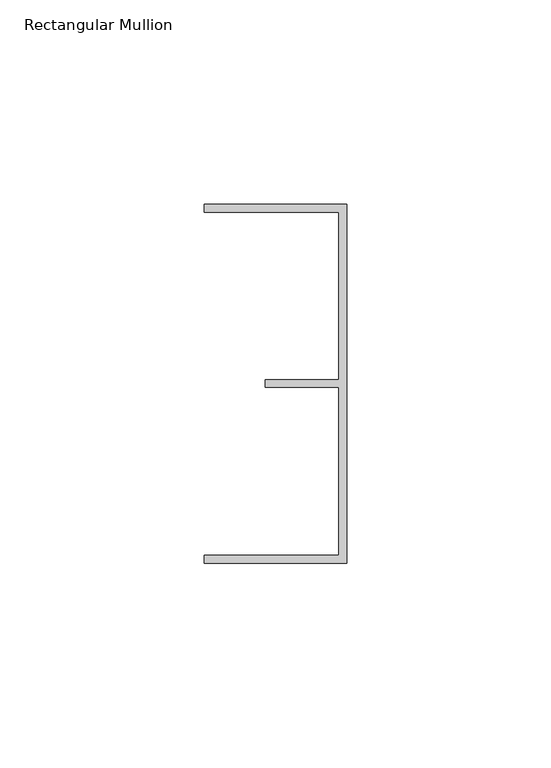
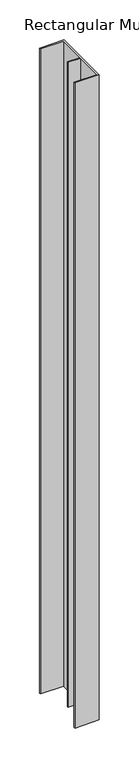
"""IFC4 building model written with IfcOpenShell, lengths in millimetres: member geometry, Rectangular Mullion : CEILING_TRACK_CAP 94-KLP00-P80-SD20ALU."""

from ifc_helpers import new_model, si_unit, frame, origin, place, context, project, spatial, polyline, outline, extrude, source, transform, mapped, element, save


def rectangular_mullion_06072e69(model_context):
    return source(origin(), model_context, "Body", "SweptSolid", [
        extrude(outline(polyline([(0.0, 44.0), (0.0, -44.0), (-35.0, -44.0), (-35.0, -42.0), (-2.0, -42.0), (-2.0, -0.9316478), (-20.0, -0.9316478), (-20.0, 0.9316478), (-2.0, 0.9316478), (-2.0, 42.0), (-35.0, 42.0), (-35.0, 44.0), (0.0, 44.0)])), frame((0.0, 0.0, -984.7), z_axis=(0.0, 0.0, 1.0), x_axis=(1.0, 0.0, 0.0)), (0.0, 0.0, 1.0), 984.7),
    ])


if __name__ == "__main__":
    model = new_model("IFC4")
    model_context = context("Model", 3, world=origin())
    ifc_project = project(units=[si_unit("LENGTHUNIT", "METRE", prefix="MILLI")], contexts=[model_context])
    site = spatial("IfcSite", under=ifc_project)
    building = spatial("IfcBuilding", under=site)
    placement = place(None, origin())
    rectangular_mullion_shape = rectangular_mullion_06072e69(model_context)
    element("IfcMember", 1, ObjectType="Rectangular Mullion : CEILING_TRACK_CAP 94-KLP00-P80-SD20ALU", at=placement, inside=building, context=model_context, shape_type="MappedRepresentation", body=[
        mapped(rectangular_mullion_shape, transform((0.0, 0.0, 0.0), x_axis=(1.0, 0.0, 0.0), y_axis=(0.0, 1.0, 0.0), z_axis=(0.0, 0.0, 1.0))),
    ])
    save(model, "model.ifc")
